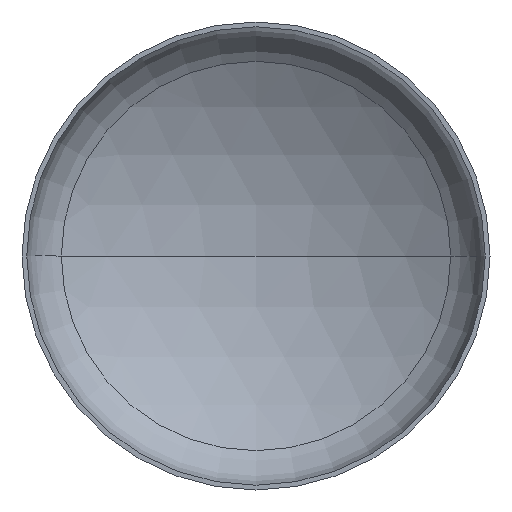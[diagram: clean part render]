
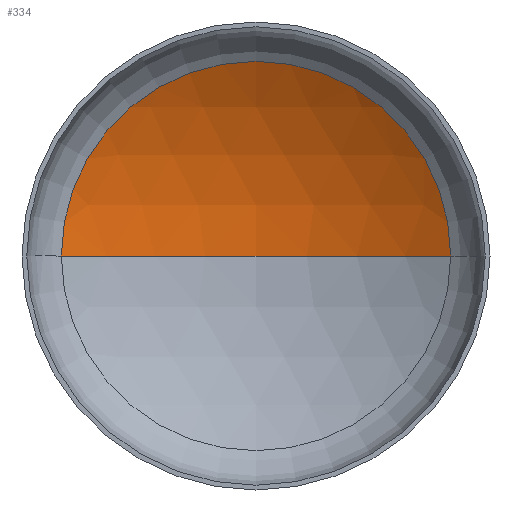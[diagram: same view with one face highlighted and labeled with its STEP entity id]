
A CAD part, front view. The second image highlights one B-rep face of the part: STEP entity #334.
In plain terms, the highlighted spherical face has radius 6400 mm.
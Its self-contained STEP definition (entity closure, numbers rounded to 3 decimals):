
#7 = DIRECTION ( 'NONE',  ( 1., 0., 0. ) ) ;
#12 = DIRECTION ( 'NONE',  ( 0., -1., 0. ) ) ;
#13 = AXIS2_PLACEMENT_3D ( 'NONE', #120, #104, #96 ) ;
#51 = ORIENTED_EDGE ( 'NONE', *, *, #212, .T. ) ;
#61 = ORIENTED_EDGE ( 'NONE', *, *, #219, .T. ) ;
#62 = FACE_OUTER_BOUND ( 'NONE', #190, .T. ) ;
#81 = AXIS2_PLACEMENT_3D ( 'NONE', #136, #154, #158 ) ;
#89 = AXIS2_PLACEMENT_3D ( 'NONE', #317, #403, #272 ) ;
#94 = CARTESIAN_POINT ( 'NONE',  ( 3327.505, 1150.682, 0. ) ) ;
#96 = DIRECTION ( 'NONE',  ( -1., 0., 0. ) ) ;
#98 = AXIS2_PLACEMENT_3D ( 'NONE', #350, #12, #7 ) ;
#104 = DIRECTION ( 'NONE',  ( 0., 0., -1. ) ) ;
#120 = CARTESIAN_POINT ( 'NONE',  ( 0., -4316.283, 0. ) ) ;
#127 = ORIENTED_EDGE ( 'NONE', *, *, #223, .F. ) ;
#136 = CARTESIAN_POINT ( 'NONE',  ( 0., -4316.283, 0. ) ) ;
#154 = DIRECTION ( 'NONE',  ( 0., 0., 1. ) ) ;
#158 = DIRECTION ( 'NONE',  ( 1., 0., 0. ) ) ;
#168 = VERTEX_POINT ( 'NONE', #336 ) ;
#181 = VERTEX_POINT ( 'NONE', #323 ) ;
#190 = EDGE_LOOP ( 'NONE', ( #127, #61, #51 ) ) ;
#212 = EDGE_CURVE ( 'NONE', #339, #168, #407, .T. ) ;
#219 = EDGE_CURVE ( 'NONE', #181, #339, #301, .T. ) ;
#223 = EDGE_CURVE ( 'NONE', #181, #168, #349, .T. ) ;
#269 = SPHERICAL_SURFACE ( 'NONE', #13, 6400. ) ;
#272 = DIRECTION ( 'NONE',  ( -1., 0., 0. ) ) ;
#301 = CIRCLE ( 'NONE', #89, 6400. ) ;
#317 = CARTESIAN_POINT ( 'NONE',  ( 0., -4316.283, 0. ) ) ;
#323 = CARTESIAN_POINT ( 'NONE',  ( 0., 2083.717, 0. ) ) ;
#334 = ADVANCED_FACE ( 'NONE', ( #62 ), #269, .F. ) ;
#336 = CARTESIAN_POINT ( 'NONE',  ( -3327.505, 1150.682, 0. ) ) ;
#339 = VERTEX_POINT ( 'NONE', #94 ) ;
#349 = CIRCLE ( 'NONE', #81, 6400. ) ;
#350 = CARTESIAN_POINT ( 'NONE',  ( 0., 1150.682, 0. ) ) ;
#403 = DIRECTION ( 'NONE',  ( 0., 0., -1. ) ) ;
#407 = CIRCLE ( 'NONE', #98, 3327.505 ) ;
